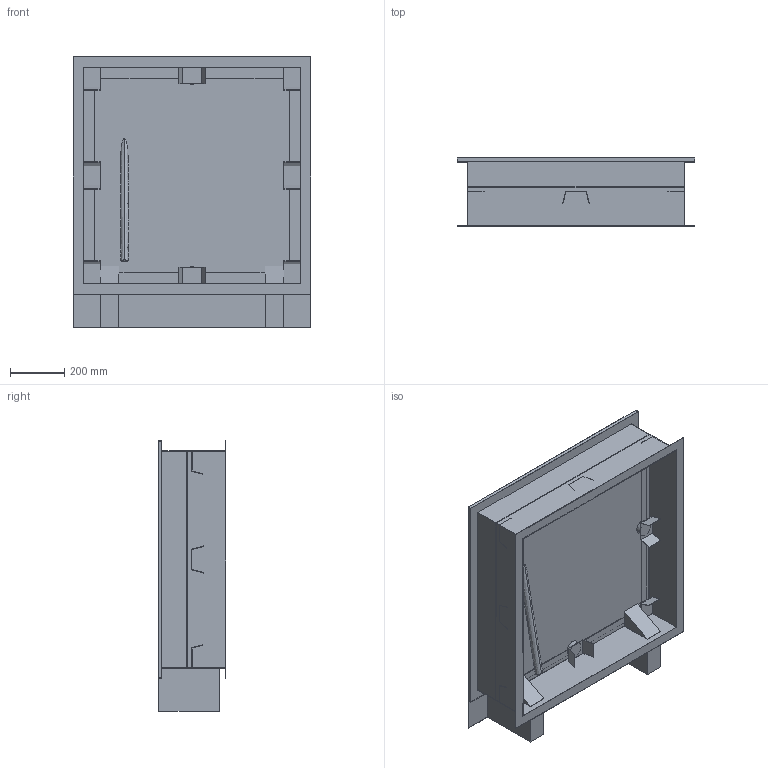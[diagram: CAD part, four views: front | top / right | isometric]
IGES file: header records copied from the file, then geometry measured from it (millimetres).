
Start section:  PTC IGES file: 52114885.igs
Global section: file name: 52114885.igs; native system: Creo Parametric by PTC Inc.; preprocessor: 2022162; author: hrl; organization: Unknown; date: 20240624.093157; units: millimetre
Bounding box: 878 x 250 x 1000 mm (x, y, z)
Surface area: 4555405.5 mm2 (no closed solid volume)
Topology: 0 solids, 0 shells, 238 faces, 1300 edges, 1300 vertices
Faces by surface type: bspline 178, revolution 60
